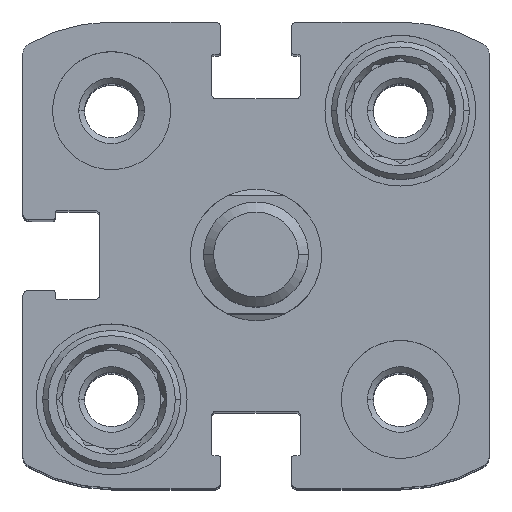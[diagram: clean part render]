
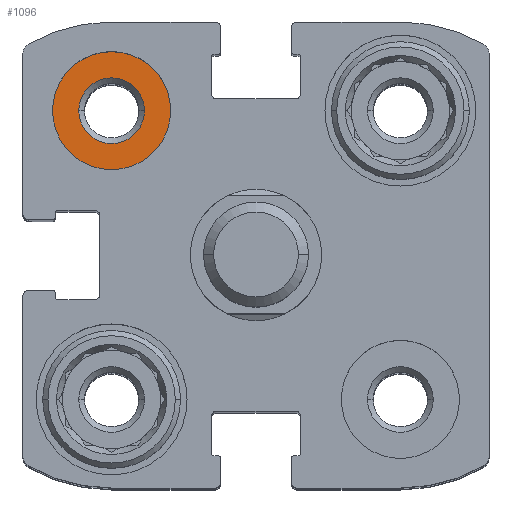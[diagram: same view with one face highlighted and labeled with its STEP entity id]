
A CAD part, top view. The second image highlights one B-rep face of the part: STEP entity #1096.
In plain terms, the highlighted planar face has unit normal (0, 0, 1).
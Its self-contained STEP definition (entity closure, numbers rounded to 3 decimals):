
#57 = CARTESIAN_POINT ( 'NONE',  ( -6.5, 11., -4.8 ) ) ;
#257 = AXIS2_PLACEMENT_3D ( 'NONE', #743, #8835, #4888 ) ;
#743 = CARTESIAN_POINT ( 'NONE',  ( -11., 11., -4.8 ) ) ;
#764 = CARTESIAN_POINT ( 'NONE',  ( -11., 11., -4.8 ) ) ;
#992 = CIRCLE ( 'NONE', #13335, 2.5 ) ;
#1096 = ADVANCED_FACE ( 'NONE', ( #12603, #3314 ), #7461, .T. ) ;
#1249 = EDGE_CURVE ( 'NONE', #1729, #7824, #4812, .T. ) ;
#1706 = EDGE_CURVE ( 'NONE', #7824, #1729, #10011, .T. ) ;
#1729 = VERTEX_POINT ( 'NONE', #57 ) ;
#1998 = CARTESIAN_POINT ( 'NONE',  ( -15.5, 11., -4.8 ) ) ;
#3314 = FACE_BOUND ( 'NONE', #6639, .T. ) ;
#3500 = ORIENTED_EDGE ( 'NONE', *, *, #8070, .T. ) ;
#3518 = AXIS2_PLACEMENT_3D ( 'NONE', #10443, #8402, #9351 ) ;
#3814 = CIRCLE ( 'NONE', #8790, 2.5 ) ;
#4059 = AXIS2_PLACEMENT_3D ( 'NONE', #4339, #8469, #9486 ) ;
#4074 = DIRECTION ( 'NONE',  ( 0., 0., -1. ) ) ;
#4299 = CARTESIAN_POINT ( 'NONE',  ( -8.5, 11., -4.8 ) ) ;
#4339 = CARTESIAN_POINT ( 'NONE',  ( -11., 15.5, -4.8 ) ) ;
#4812 = CIRCLE ( 'NONE', #257, 4.5 ) ;
#4888 = DIRECTION ( 'NONE',  ( -1., 0., 0. ) ) ;
#5318 = ORIENTED_EDGE ( 'NONE', *, *, #1706, .F. ) ;
#5773 = ORIENTED_EDGE ( 'NONE', *, *, #6938, .T. ) ;
#6639 = EDGE_LOOP ( 'NONE', ( #3500, #5773 ) ) ;
#6938 = EDGE_CURVE ( 'NONE', #13359, #9871, #992, .T. ) ;
#7017 = DIRECTION ( 'NONE',  ( -1., 0., 0. ) ) ;
#7461 = PLANE ( 'NONE',  #4059 ) ;
#7824 = VERTEX_POINT ( 'NONE', #1998 ) ;
#8070 = EDGE_CURVE ( 'NONE', #9871, #13359, #3814, .T. ) ;
#8402 = DIRECTION ( 'NONE',  ( 0., 0., -1. ) ) ;
#8469 = DIRECTION ( 'NONE',  ( 0., 0., 1. ) ) ;
#8790 = AXIS2_PLACEMENT_3D ( 'NONE', #764, #8982, #7017 ) ;
#8835 = DIRECTION ( 'NONE',  ( 0., 0., -1. ) ) ;
#8982 = DIRECTION ( 'NONE',  ( 0., 0., -1. ) ) ;
#9217 = CARTESIAN_POINT ( 'NONE',  ( -11., 11., -4.8 ) ) ;
#9351 = DIRECTION ( 'NONE',  ( -1., 0., 0. ) ) ;
#9486 = DIRECTION ( 'NONE',  ( 1., 0., 0. ) ) ;
#9871 = VERTEX_POINT ( 'NONE', #4299 ) ;
#10011 = CIRCLE ( 'NONE', #3518, 4.5 ) ;
#10443 = CARTESIAN_POINT ( 'NONE',  ( -11., 11., -4.8 ) ) ;
#10918 = ORIENTED_EDGE ( 'NONE', *, *, #1249, .F. ) ;
#11079 = CARTESIAN_POINT ( 'NONE',  ( -13.5, 11., -4.8 ) ) ;
#12339 = DIRECTION ( 'NONE',  ( -1., 0., 0. ) ) ;
#12603 = FACE_OUTER_BOUND ( 'NONE', #13414, .T. ) ;
#13335 = AXIS2_PLACEMENT_3D ( 'NONE', #9217, #4074, #12339 ) ;
#13359 = VERTEX_POINT ( 'NONE', #11079 ) ;
#13414 = EDGE_LOOP ( 'NONE', ( #5318, #10918 ) ) ;
